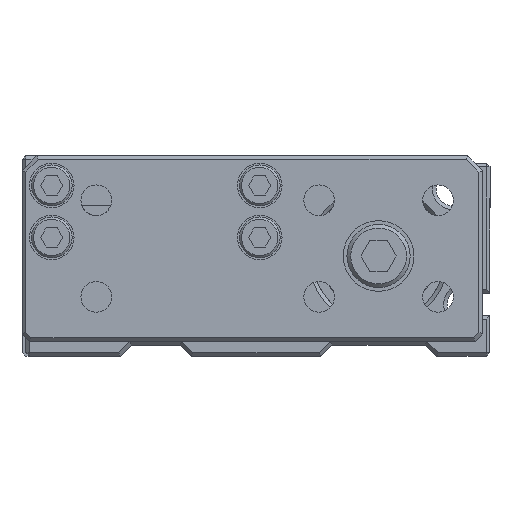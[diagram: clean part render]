
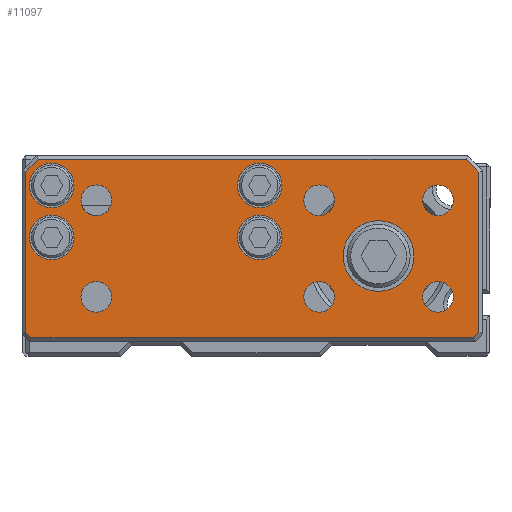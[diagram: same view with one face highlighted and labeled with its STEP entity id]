
A CAD part, front view. The second image highlights one B-rep face of the part: STEP entity #11097.
In plain terms, the highlighted planar face has unit normal (0, -1, 0).
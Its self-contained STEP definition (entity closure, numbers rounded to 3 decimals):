
#10199=CARTESIAN_POINT('',(4.75,-11.8,0.0));
#10200=VERTEX_POINT('',#10199);
#10201=CARTESIAN_POINT('',(0.,-11.8,0.0));
#10202=DIRECTION('',(0.0,1.0,0.0));
#10203=DIRECTION('',(1.0,0.0,0.0));
#10204=AXIS2_PLACEMENT_3D('',#10201,#10202,#10203);
#10205=CIRCLE('',#10204,4.75);
#10206=EDGE_CURVE('',#10200,#10200,#10205,.T.);
#10260=CARTESIAN_POINT('',(-41.0,-11.8,9.5));
#10261=VERTEX_POINT('',#10260);
#10262=CARTESIAN_POINT('',(-44.,-11.8,9.5));
#10263=DIRECTION('',(0.0,1.0,0.0));
#10264=DIRECTION('',(1.0,0.0,0.0));
#10265=AXIS2_PLACEMENT_3D('',#10262,#10263,#10264);
#10266=CIRCLE('',#10265,3.);
#10267=EDGE_CURVE('',#10261,#10261,#10266,.T.);
#10329=CARTESIAN_POINT('',(-41.0,-11.8,2.5));
#10330=VERTEX_POINT('',#10329);
#10331=CARTESIAN_POINT('',(-44.,-11.8,2.5));
#10332=DIRECTION('',(0.0,1.0,0.0));
#10333=DIRECTION('',(1.0,0.0,0.0));
#10334=AXIS2_PLACEMENT_3D('',#10331,#10332,#10333);
#10335=CIRCLE('',#10334,3.);
#10336=EDGE_CURVE('',#10330,#10330,#10335,.T.);
#10398=CARTESIAN_POINT('',(-13.,-11.8,2.5));
#10399=VERTEX_POINT('',#10398);
#10400=CARTESIAN_POINT('',(-16.,-11.8,2.5));
#10401=DIRECTION('',(0.0,1.0,0.0));
#10402=DIRECTION('',(1.0,0.0,0.0));
#10403=AXIS2_PLACEMENT_3D('',#10400,#10401,#10402);
#10404=CIRCLE('',#10403,3.);
#10405=EDGE_CURVE('',#10399,#10399,#10404,.T.);
#10467=CARTESIAN_POINT('',(-13.,-11.8,9.5));
#10468=VERTEX_POINT('',#10467);
#10469=CARTESIAN_POINT('',(-16.,-11.8,9.5));
#10470=DIRECTION('',(0.0,1.0,0.0));
#10471=DIRECTION('',(1.0,0.0,0.0));
#10472=AXIS2_PLACEMENT_3D('',#10469,#10470,#10471);
#10473=CIRCLE('',#10472,3.);
#10474=EDGE_CURVE('',#10468,#10468,#10473,.T.);
#10536=CARTESIAN_POINT('',(10.067,-11.8,7.5));
#10537=VERTEX_POINT('',#10536);
#10538=CARTESIAN_POINT('',(8.,-11.8,7.5));
#10539=DIRECTION('',(0.0,1.0,0.0));
#10540=DIRECTION('',(1.0,0.0,0.0));
#10541=AXIS2_PLACEMENT_3D('',#10538,#10539,#10540);
#10542=CIRCLE('',#10541,2.067);
#10543=EDGE_CURVE('',#10537,#10537,#10542,.T.);
#10585=CARTESIAN_POINT('',(10.067,-11.8,-5.5));
#10586=VERTEX_POINT('',#10585);
#10587=CARTESIAN_POINT('',(8.,-11.8,-5.5));
#10588=DIRECTION('',(0.0,1.0,0.0));
#10589=DIRECTION('',(1.0,0.0,0.0));
#10590=AXIS2_PLACEMENT_3D('',#10587,#10588,#10589);
#10591=CIRCLE('',#10590,2.067);
#10592=EDGE_CURVE('',#10586,#10586,#10591,.T.);
#10634=CARTESIAN_POINT('',(-5.933,-11.8,-5.5));
#10635=VERTEX_POINT('',#10634);
#10636=CARTESIAN_POINT('',(-8.,-11.8,-5.5));
#10637=DIRECTION('',(0.0,1.0,0.0));
#10638=DIRECTION('',(1.0,0.0,0.0));
#10639=AXIS2_PLACEMENT_3D('',#10636,#10637,#10638);
#10640=CIRCLE('',#10639,2.067);
#10641=EDGE_CURVE('',#10635,#10635,#10640,.T.);
#10683=CARTESIAN_POINT('',(-5.933,-11.8,7.5));
#10684=VERTEX_POINT('',#10683);
#10685=CARTESIAN_POINT('',(-8.,-11.8,7.5));
#10686=DIRECTION('',(0.0,1.0,0.0));
#10687=DIRECTION('',(1.0,0.0,0.0));
#10688=AXIS2_PLACEMENT_3D('',#10685,#10686,#10687);
#10689=CIRCLE('',#10688,2.067);
#10690=EDGE_CURVE('',#10684,#10684,#10689,.T.);
#10732=CARTESIAN_POINT('',(-35.933,-11.8,7.5));
#10733=VERTEX_POINT('',#10732);
#10734=CARTESIAN_POINT('',(-38.,-11.8,7.5));
#10735=DIRECTION('',(0.0,1.0,0.0));
#10736=DIRECTION('',(1.0,0.0,0.0));
#10737=AXIS2_PLACEMENT_3D('',#10734,#10735,#10736);
#10738=CIRCLE('',#10737,2.067);
#10739=EDGE_CURVE('',#10733,#10733,#10738,.T.);
#10790=CARTESIAN_POINT('',(-35.933,-11.8,-5.5));
#10791=VERTEX_POINT('',#10790);
#10792=CARTESIAN_POINT('',(-38.,-11.8,-5.5));
#10793=DIRECTION('',(0.0,1.0,0.0));
#10794=DIRECTION('',(1.0,0.0,0.0));
#10795=AXIS2_PLACEMENT_3D('',#10792,#10793,#10794);
#10796=CIRCLE('',#10795,2.067);
#10797=EDGE_CURVE('',#10791,#10791,#10796,.T.);
#10993=CARTESIAN_POINT('',(-48.0,-11.8,13.5));
#10994=DIRECTION('',(0.0,-1.0,0.0));
#10995=DIRECTION('',(0.0,0.0,-1.0));
#10996=AXIS2_PLACEMENT_3D('',#10993,#10994,#10995);
#10997=PLANE('',#10996);
#10998=CARTESIAN_POINT('',(13.5,-11.8,11.293));
#10999=VERTEX_POINT('',#10998);
#11000=CARTESIAN_POINT('',(13.5,-11.8,-10.293));
#11001=VERTEX_POINT('',#11000);
#11002=CARTESIAN_POINT('',(13.5,-11.8,11.293));
#11003=DIRECTION('',(0.0,0.0,-1.0));
#11004=VECTOR('',#11003,21.586);
#11005=LINE('',#11002,#11004);
#11006=EDGE_CURVE('',#10999,#11001,#11005,.T.);
#11007=ORIENTED_EDGE('',*,*,#11006,.F.);
#11008=CARTESIAN_POINT('',(11.793,-11.8,13.));
#11009=VERTEX_POINT('',#11008);
#11010=CARTESIAN_POINT('',(11.793,-11.8,13.));
#11011=DIRECTION('',(0.707,0.0,-0.707));
#11012=VECTOR('',#11011,2.414);
#11013=LINE('',#11010,#11012);
#11014=EDGE_CURVE('',#11009,#10999,#11013,.T.);
#11015=ORIENTED_EDGE('',*,*,#11014,.F.);
#11016=CARTESIAN_POINT('',(-45.793,-11.8,13.0));
#11017=VERTEX_POINT('',#11016);
#11018=CARTESIAN_POINT('',(-45.793,-11.8,13.0));
#11019=DIRECTION('',(1.0,0.0,0.0));
#11020=VECTOR('',#11019,57.586);
#11021=LINE('',#11018,#11020);
#11022=EDGE_CURVE('',#11017,#11009,#11021,.T.);
#11023=ORIENTED_EDGE('',*,*,#11022,.F.);
#11024=CARTESIAN_POINT('',(-47.5,-11.8,11.293));
#11025=VERTEX_POINT('',#11024);
#11026=CARTESIAN_POINT('',(-47.5,-11.8,11.293));
#11027=DIRECTION('',(0.707,0.0,0.707));
#11028=VECTOR('',#11027,2.414);
#11029=LINE('',#11026,#11028);
#11030=EDGE_CURVE('',#11025,#11017,#11029,.T.);
#11031=ORIENTED_EDGE('',*,*,#11030,.F.);
#11032=CARTESIAN_POINT('',(-47.5,-11.8,-10.293));
#11033=VERTEX_POINT('',#11032);
#11034=CARTESIAN_POINT('',(-47.5,-11.8,-10.293));
#11035=DIRECTION('',(0.0,0.0,1.0));
#11036=VECTOR('',#11035,21.586);
#11037=LINE('',#11034,#11036);
#11038=EDGE_CURVE('',#11033,#11025,#11037,.T.);
#11039=ORIENTED_EDGE('',*,*,#11038,.F.);
#11040=CARTESIAN_POINT('',(-46.793,-11.8,-11.0));
#11041=VERTEX_POINT('',#11040);
#11042=CARTESIAN_POINT('',(-46.793,-11.8,-11.0));
#11043=DIRECTION('',(-0.707,0.0,0.707));
#11044=VECTOR('',#11043,1.);
#11045=LINE('',#11042,#11044);
#11046=EDGE_CURVE('',#11041,#11033,#11045,.T.);
#11047=ORIENTED_EDGE('',*,*,#11046,.F.);
#11048=CARTESIAN_POINT('',(12.793,-11.8,-11.0));
#11049=VERTEX_POINT('',#11048);
#11050=CARTESIAN_POINT('',(12.793,-11.8,-11.0));
#11051=DIRECTION('',(-1.0,0.0,0.0));
#11052=VECTOR('',#11051,59.586);
#11053=LINE('',#11050,#11052);
#11054=EDGE_CURVE('',#11049,#11041,#11053,.T.);
#11055=ORIENTED_EDGE('',*,*,#11054,.F.);
#11056=CARTESIAN_POINT('',(13.5,-11.8,-10.293));
#11057=DIRECTION('',(-0.707,0.0,-0.707));
#11058=VECTOR('',#11057,1.);
#11059=LINE('',#11056,#11058);
#11060=EDGE_CURVE('',#11001,#11049,#11059,.T.);
#11061=ORIENTED_EDGE('',*,*,#11060,.F.);
#11062=EDGE_LOOP('',(#11007,#11015,#11023,#11031,#11039,#11047,#11055,#11061));
#11063=FACE_OUTER_BOUND('',#11062,.T.);
#11064=ORIENTED_EDGE('',*,*,#10206,.T.);
#11065=EDGE_LOOP('',(#11064));
#11066=FACE_BOUND('',#11065,.T.);
#11067=ORIENTED_EDGE('',*,*,#10267,.T.);
#11068=EDGE_LOOP('',(#11067));
#11069=FACE_BOUND('',#11068,.T.);
#11070=ORIENTED_EDGE('',*,*,#10336,.T.);
#11071=EDGE_LOOP('',(#11070));
#11072=FACE_BOUND('',#11071,.T.);
#11073=ORIENTED_EDGE('',*,*,#10405,.T.);
#11074=EDGE_LOOP('',(#11073));
#11075=FACE_BOUND('',#11074,.T.);
#11076=ORIENTED_EDGE('',*,*,#10474,.T.);
#11077=EDGE_LOOP('',(#11076));
#11078=FACE_BOUND('',#11077,.T.);
#11079=ORIENTED_EDGE('',*,*,#10543,.T.);
#11080=EDGE_LOOP('',(#11079));
#11081=FACE_BOUND('',#11080,.T.);
#11082=ORIENTED_EDGE('',*,*,#10592,.T.);
#11083=EDGE_LOOP('',(#11082));
#11084=FACE_BOUND('',#11083,.T.);
#11085=ORIENTED_EDGE('',*,*,#10641,.T.);
#11086=EDGE_LOOP('',(#11085));
#11087=FACE_BOUND('',#11086,.T.);
#11088=ORIENTED_EDGE('',*,*,#10690,.T.);
#11089=EDGE_LOOP('',(#11088));
#11090=FACE_BOUND('',#11089,.T.);
#11091=ORIENTED_EDGE('',*,*,#10739,.T.);
#11092=EDGE_LOOP('',(#11091));
#11093=FACE_BOUND('',#11092,.T.);
#11094=ORIENTED_EDGE('',*,*,#10797,.T.);
#11095=EDGE_LOOP('',(#11094));
#11096=FACE_BOUND('',#11095,.T.);
#11097=ADVANCED_FACE('',(#11063,#11066,#11069,#11072,#11075,#11078,#11081,#11084,#11087,#11090,#11093,#11096),#10997,.T.);
